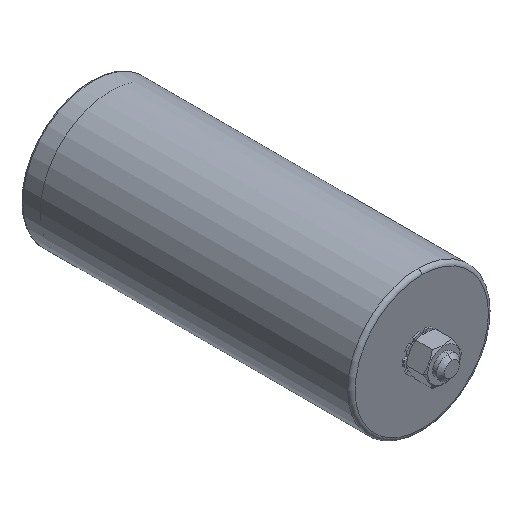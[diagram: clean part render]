
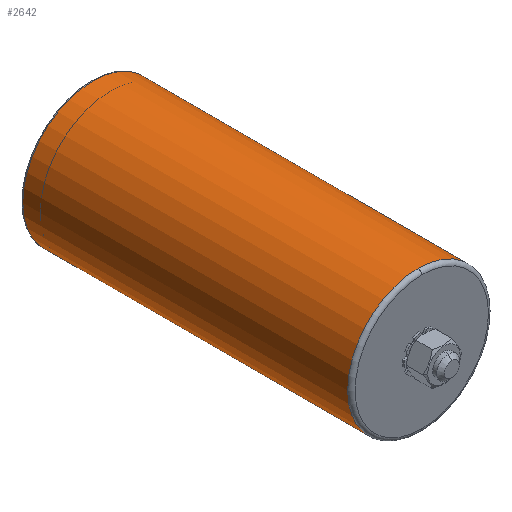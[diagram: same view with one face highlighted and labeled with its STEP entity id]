
A CAD part, isometric view. The second image highlights one B-rep face of the part: STEP entity #2642.
In plain terms, the highlighted cylindrical face has radius 37.5 mm (diameter 75 mm), a partial arc.
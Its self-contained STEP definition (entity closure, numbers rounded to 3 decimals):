
#6 = VERTEX_POINT ( 'NONE', #6029 ) ;
#169 = AXIS2_PLACEMENT_3D ( 'NONE', #3211, #5807, #5746 ) ;
#285 = CARTESIAN_POINT ( 'NONE',  ( 0., 7.355, 0. ) ) ;
#940 = DIRECTION ( 'NONE',  ( 0., -1., 0. ) ) ;
#953 = CARTESIAN_POINT ( 'NONE',  ( 0., -165.645, 0. ) ) ;
#1009 = EDGE_CURVE ( 'NONE', #6447, #5467, #4588, .T. ) ;
#1907 = CARTESIAN_POINT ( 'NONE',  ( 24.105, 7.355, 28.727 ) ) ;
#2039 = AXIS2_PLACEMENT_3D ( 'NONE', #953, #3598, #4189 ) ;
#2263 = EDGE_LOOP ( 'NONE', ( #7534, #2775, #5180, #7190, #7301 ) ) ;
#2518 = AXIS2_PLACEMENT_3D ( 'NONE', #285, #940, #3583 ) ;
#2626 = LINE ( 'NONE', #7882, #7539 ) ;
#2642 = ADVANCED_FACE ( 'NONE', ( #6745 ), #5932, .T. ) ;
#2702 = EDGE_CURVE ( 'NONE', #6, #6447, #4559, .T. ) ;
#2775 = ORIENTED_EDGE ( 'NONE', *, *, #2702, .T. ) ;
#2813 = EDGE_CURVE ( 'NONE', #5467, #3592, #2626, .T. ) ;
#3140 = CARTESIAN_POINT ( 'NONE',  ( 0., -165.645, 37.5 ) ) ;
#3211 = CARTESIAN_POINT ( 'NONE',  ( 0., -165.645, 0. ) ) ;
#3583 = DIRECTION ( 'NONE',  ( -0.643, 0., -0.766 ) ) ;
#3592 = VERTEX_POINT ( 'NONE', #1907 ) ;
#3598 = DIRECTION ( 'NONE',  ( 0., 1., 0. ) ) ;
#3732 = CARTESIAN_POINT ( 'NONE',  ( 0., -1.645, 0. ) ) ;
#3760 = DIRECTION ( 'NONE',  ( 0., 1., 0. ) ) ;
#4033 = DIRECTION ( 'NONE',  ( 0., 1., 0. ) ) ;
#4189 = DIRECTION ( 'NONE',  ( 0., 0., -1. ) ) ;
#4559 = CIRCLE ( 'NONE', #169, 37.5 ) ;
#4572 = EDGE_CURVE ( 'NONE', #3592, #7577, #6369, .T. ) ;
#4588 = CIRCLE ( 'NONE', #2039, 37.5 ) ;
#5105 = EDGE_CURVE ( 'NONE', #6, #7577, #7113, .T. ) ;
#5180 = ORIENTED_EDGE ( 'NONE', *, *, #1009, .T. ) ;
#5467 = VERTEX_POINT ( 'NONE', #6024 ) ;
#5746 = DIRECTION ( 'NONE',  ( 0., 0., -1. ) ) ;
#5807 = DIRECTION ( 'NONE',  ( 0., 1., 0. ) ) ;
#5932 = CYLINDRICAL_SURFACE ( 'NONE', #8356, 37.5 ) ;
#6024 = CARTESIAN_POINT ( 'NONE',  ( 24.105, -165.645, 28.727 ) ) ;
#6029 = CARTESIAN_POINT ( 'NONE',  ( -24.105, -165.645, -28.727 ) ) ;
#6217 = DIRECTION ( 'NONE',  ( 0.643, 0., 0.766 ) ) ;
#6243 = DIRECTION ( 'NONE',  ( 0., 1., 0. ) ) ;
#6369 = CIRCLE ( 'NONE', #2518, 37.5 ) ;
#6447 = VERTEX_POINT ( 'NONE', #3140 ) ;
#6745 = FACE_OUTER_BOUND ( 'NONE', #2263, .T. ) ;
#6782 = CARTESIAN_POINT ( 'NONE',  ( -24.105, -1.645, -28.727 ) ) ;
#7113 = LINE ( 'NONE', #6782, #7412 ) ;
#7190 = ORIENTED_EDGE ( 'NONE', *, *, #2813, .T. ) ;
#7301 = ORIENTED_EDGE ( 'NONE', *, *, #4572, .T. ) ;
#7412 = VECTOR ( 'NONE', #6243, 1000. ) ;
#7534 = ORIENTED_EDGE ( 'NONE', *, *, #5105, .F. ) ;
#7539 = VECTOR ( 'NONE', #4033, 1000. ) ;
#7577 = VERTEX_POINT ( 'NONE', #7611 ) ;
#7611 = CARTESIAN_POINT ( 'NONE',  ( -24.105, 7.355, -28.727 ) ) ;
#7882 = CARTESIAN_POINT ( 'NONE',  ( 24.105, -1.645, 28.727 ) ) ;
#8356 = AXIS2_PLACEMENT_3D ( 'NONE', #3732, #3760, #6217 ) ;
